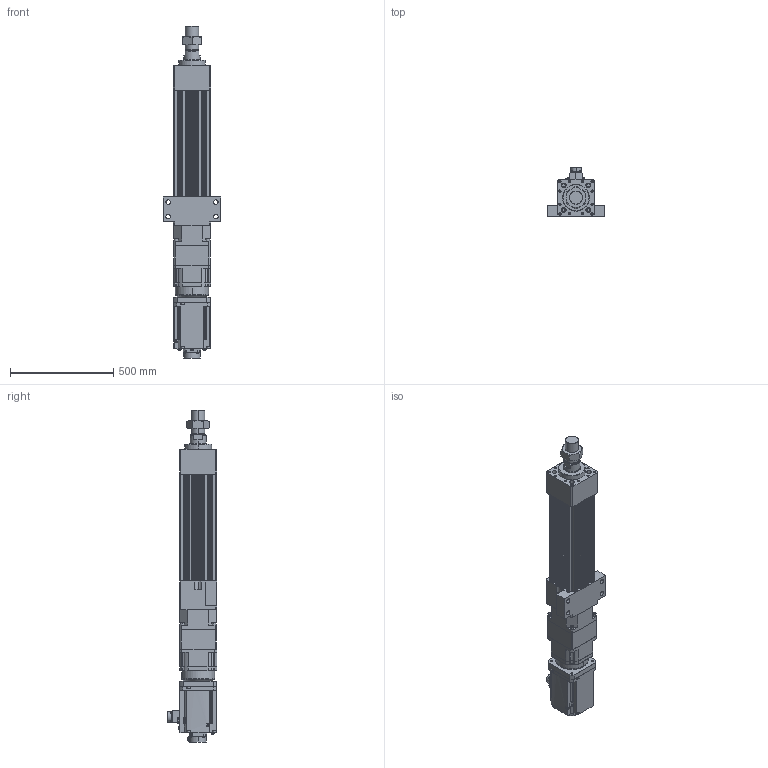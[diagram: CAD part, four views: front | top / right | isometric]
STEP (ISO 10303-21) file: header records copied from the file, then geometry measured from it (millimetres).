
FILE_DESCRIPTION (( 'STEP AP203' ), '1' );
FILE_NAME ('HES180HS-S200-W070G00-M-FFC.STEP', '2026-06-10T06:52:44', ( 'tms' ), ( '' ), 'SwSTEP 2.0', 'SolidWorks 2013', '' );
FILE_SCHEMA (( 'CONFIG_CONTROL_DESIGN' ));
Length unit declared in the file: millimetre
Products named in the file (9): HG-SR702B; AB1803; HES180-S-G180; HES180-FFC-200; M64X2.0P; AB1801; HES180-M-ROD-200; AB1802; HES180HS-S200-W070G00-M-FFC
Assembly tree (8 placements, depth 2):
  HES180HS-S200-W070G00-M-FFC
    HES180-FFC-200
    HES180-M-ROD-200
    M64X2.0P
    HES180-S-G180
    AB1801
    AB1802
    AB1803
    HG-SR702B
Bounding box: 280 x 239.1 x 1605.74 mm (x, y, z)
Volume: 25171725 mm3; surface area: 2196745.2 mm2
Topology: 5 solids, 20 shells, 1590 faces, 4113 edges, 2664 vertices
Faces by surface type: cylinder 720, plane 637, cone 166, bspline 63, torus 4
Entity records: 57254 total; most frequent: CARTESIAN_POINT 16780, DIRECTION 8535, ORIENTED_EDGE 8102, EDGE_CURVE 4075, AXIS2_PLACEMENT_3D 3199, VERTEX_POINT 2664, LINE 2137, VECTOR 2137
